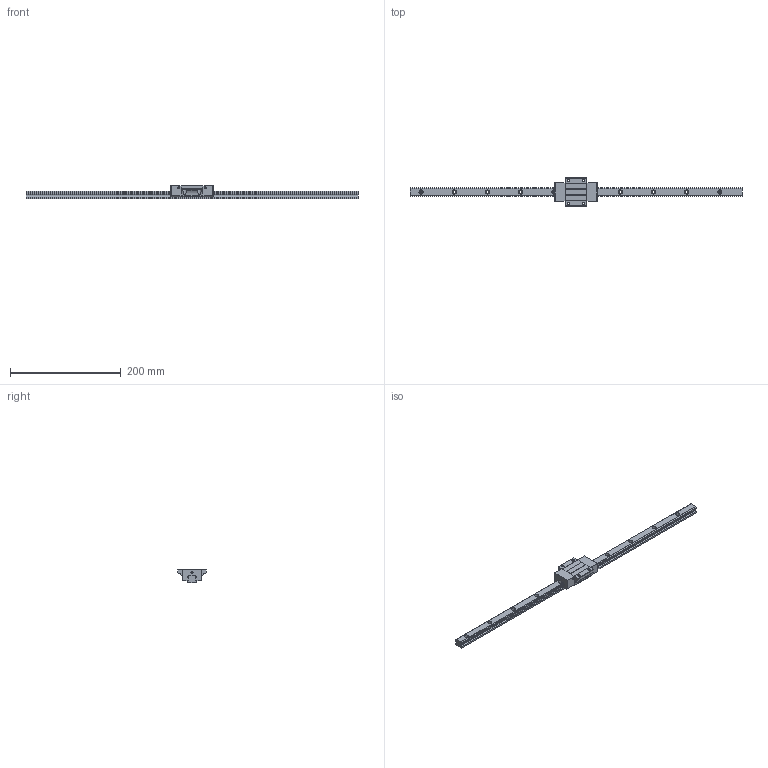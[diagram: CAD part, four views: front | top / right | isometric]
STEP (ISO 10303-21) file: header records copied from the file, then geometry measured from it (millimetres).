
FILE_DESCRIPTION (( 'STEP AP203' ), '1' );
FILE_NAME ('TRS15FN-WZ.STEP', '2024-05-21T08:40:29', ( '' ), ( '' ), 'SwSTEP 2.0', 'SolidWorks 2022', '' );
FILE_SCHEMA (( 'CONFIG_CONTROL_DESIGN' ));
Length unit declared in the file: millimetre
Products named in the file (1): TRS15FN-WZ
Bounding box: 600 x 52 x 24 mm (x, y, z)
Volume: 147536.1 mm3; surface area: 50115.8 mm2
Topology: 2 solids, 2 shells, 238 faces, 638 edges, 416 vertices
Faces by surface type: cylinder 130, plane 104, sphere 4
Entity records: 8118 total; most frequent: CARTESIAN_POINT 1904, DIRECTION 1306, ORIENTED_EDGE 1268, EDGE_CURVE 634, AXIS2_PLACEMENT_3D 467, VERTEX_POINT 416, LINE 372, VECTOR 372
